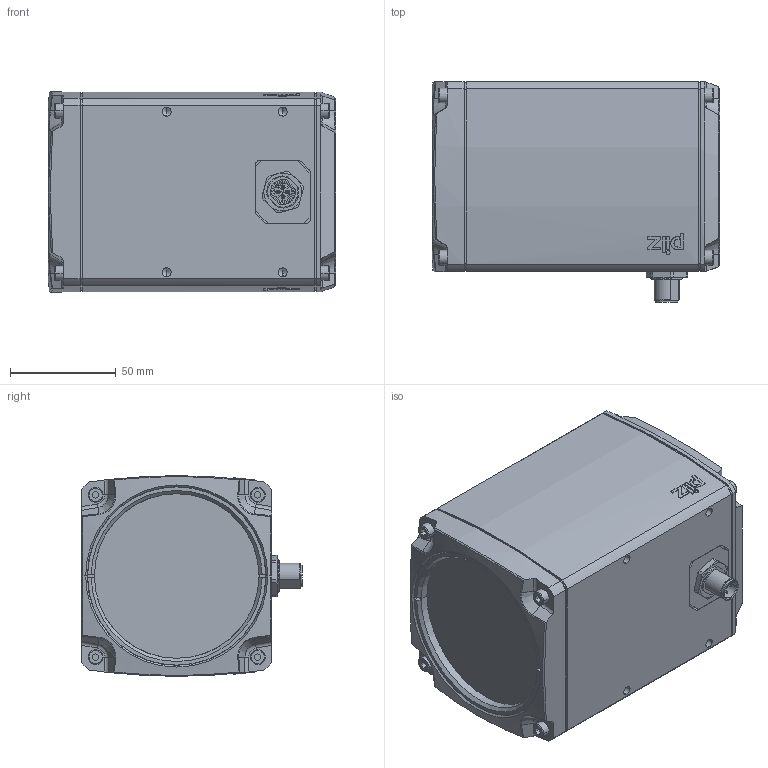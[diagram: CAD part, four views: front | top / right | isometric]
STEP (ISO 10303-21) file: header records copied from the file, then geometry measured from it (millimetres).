
FILE_DESCRIPTION((''),'2;1');
FILE_NAME('2017194','2015-02-27T',('veit'),(''),'PRO/ENGINEER BY PARAMETRIC TECHNOLOGY CORPORATION, 2014310','PRO/ENGINEER BY PARAMETRIC TECHNOLOGY CORPORATION, 2014310','');
FILE_SCHEMA(('AUTOMOTIVE_DESIGN { 1 0 10303 214 1 1 1 1 }'));
Length unit declared in the file: millimetre
Products named in the file (1): 2017194
Bounding box: 136 x 104.5 x 95 mm (x, y, z)
Volume: 1089241.6 mm3; surface area: 68689.1 mm2
Topology: 1 solids, 2 shells, 507 faces, 1290 edges, 826 vertices
Faces by surface type: plane 262, cylinder 129, cone 54, bspline 26, torus 24, sphere 8, extrusion 4
Entity records: 24449 total; most frequent: CARTESIAN_POINT 4882, ORIENTED_EDGE 2548, DIRECTION 2479, PRESENTATION_STYLE_ASSIGNMENT 1745, STYLED_ITEM 1298, CURVE_STYLE 1297, EDGE_CURVE 1274, AXIS2_PLACEMENT_3D 864
